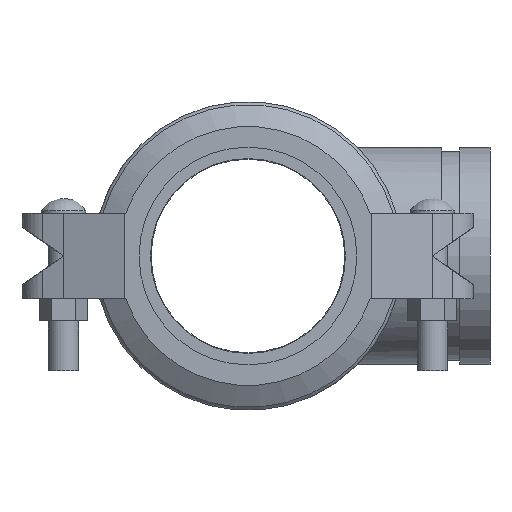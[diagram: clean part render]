
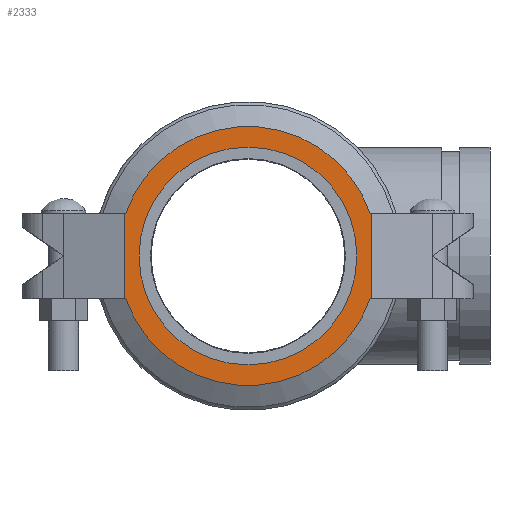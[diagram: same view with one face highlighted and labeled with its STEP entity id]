
A CAD part, left-side view. The second image highlights one B-rep face of the part: STEP entity #2333.
In plain terms, the highlighted planar face has unit normal (-1, 0, 0) as drawn and (0, 0, 1) by its records, which use the part's own axes.
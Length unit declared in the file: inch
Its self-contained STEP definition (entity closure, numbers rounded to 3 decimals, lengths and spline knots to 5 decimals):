
#94=FACE_BOUND('',#372,.T.);
#140=PLANE('',#2634);
#235=FACE_OUTER_BOUND('',#371,.T.);
#371=EDGE_LOOP('',(#1746,#1747,#1748,#1749,#1750,#1751,#1752,#1753));
#372=EDGE_LOOP('',(#1754,#1755));
#519=LINE('',#3784,#688);
#532=LINE('',#3818,#701);
#533=LINE('',#3822,#702);
#534=LINE('',#3824,#703);
#535=LINE('',#3826,#704);
#536=LINE('',#3829,#705);
#688=VECTOR('',#3090,0.3937);
#701=VECTOR('',#3129,0.3937);
#702=VECTOR('',#3132,0.3937);
#703=VECTOR('',#3133,0.3937);
#704=VECTOR('',#3134,0.3937);
#705=VECTOR('',#3137,0.3937);
#852=CIRCLE('',#2635,2.675);
#853=CIRCLE('',#2636,2.675);
#854=CIRCLE('',#2637,2.25);
#855=CIRCLE('',#2638,2.25);
#1015=VERTEX_POINT('',#3781);
#1016=VERTEX_POINT('',#3783);
#1024=VERTEX_POINT('',#3817);
#1025=VERTEX_POINT('',#3819);
#1026=VERTEX_POINT('',#3821);
#1027=VERTEX_POINT('',#3823);
#1028=VERTEX_POINT('',#3825);
#1029=VERTEX_POINT('',#3827);
#1030=VERTEX_POINT('',#3830);
#1031=VERTEX_POINT('',#3831);
#1275=EDGE_CURVE('',#1016,#1015,#519,.T.);
#1291=EDGE_CURVE('',#1015,#1024,#532,.T.);
#1292=EDGE_CURVE('',#1025,#1024,#852,.T.);
#1293=EDGE_CURVE('',#1026,#1025,#533,.T.);
#1294=EDGE_CURVE('',#1026,#1027,#534,.T.);
#1295=EDGE_CURVE('',#1027,#1028,#535,.T.);
#1296=EDGE_CURVE('',#1029,#1028,#853,.T.);
#1297=EDGE_CURVE('',#1016,#1029,#536,.T.);
#1298=EDGE_CURVE('',#1030,#1031,#854,.T.);
#1299=EDGE_CURVE('',#1031,#1030,#855,.T.);
#1746=ORIENTED_EDGE('',*,*,#1275,.T.);
#1747=ORIENTED_EDGE('',*,*,#1291,.T.);
#1748=ORIENTED_EDGE('',*,*,#1292,.F.);
#1749=ORIENTED_EDGE('',*,*,#1293,.F.);
#1750=ORIENTED_EDGE('',*,*,#1294,.T.);
#1751=ORIENTED_EDGE('',*,*,#1295,.T.);
#1752=ORIENTED_EDGE('',*,*,#1296,.F.);
#1753=ORIENTED_EDGE('',*,*,#1297,.F.);
#1754=ORIENTED_EDGE('',*,*,#1298,.T.);
#1755=ORIENTED_EDGE('',*,*,#1299,.T.);
#2333=ADVANCED_FACE('',(#235,#94),#140,.T.);
#2634=AXIS2_PLACEMENT_3D('',#3816,#3127,#3128);
#2635=AXIS2_PLACEMENT_3D('',#3820,#3130,#3131);
#2636=AXIS2_PLACEMENT_3D('',#3828,#3135,#3136);
#2637=AXIS2_PLACEMENT_3D('',#3832,#3138,#3139);
#2638=AXIS2_PLACEMENT_3D('',#3833,#3140,#3141);
#3090=DIRECTION('',(0.,-1.,0.));
#3127=DIRECTION('center_axis',(0.,0.,1.));
#3128=DIRECTION('ref_axis',(1.,0.,0.));
#3129=DIRECTION('',(1.,0.,0.));
#3130=DIRECTION('center_axis',(0.,0.,-1.));
#3131=DIRECTION('ref_axis',(-1.,0.,0.));
#3132=DIRECTION('',(-1.,0.,0.));
#3133=DIRECTION('',(0.,1.,0.));
#3134=DIRECTION('',(-1.,0.,0.));
#3135=DIRECTION('center_axis',(0.,0.,-1.));
#3136=DIRECTION('ref_axis',(-1.,0.,0.));
#3137=DIRECTION('',(1.,0.,0.));
#3138=DIRECTION('center_axis',(0.,0.,-1.));
#3139=DIRECTION('ref_axis',(-1.,0.,0.));
#3140=DIRECTION('center_axis',(0.,0.,-1.));
#3141=DIRECTION('ref_axis',(-1.,0.,0.));
#3781=CARTESIAN_POINT('',(-2.55,-0.88,1.19));
#3783=CARTESIAN_POINT('',(-2.55,0.88,1.19));
#3784=CARTESIAN_POINT('',(-2.55,1.7775,1.19));
#3816=CARTESIAN_POINT('Origin',(0.,2.675,1.19));
#3817=CARTESIAN_POINT('',(-2.52611,-0.88,1.19));
#3818=CARTESIAN_POINT('',(-4.66777,-0.88,1.19));
#3819=CARTESIAN_POINT('',(2.52611,-0.88,1.19));
#3820=CARTESIAN_POINT('Origin',(0.,0.,1.19));
#3821=CARTESIAN_POINT('',(2.55,-0.88,1.19));
#3822=CARTESIAN_POINT('',(4.66777,-0.88,1.19));
#3823=CARTESIAN_POINT('',(2.55,0.88,1.19));
#3824=CARTESIAN_POINT('',(2.55,1.7775,1.19));
#3825=CARTESIAN_POINT('',(2.52611,0.88,1.19));
#3826=CARTESIAN_POINT('',(4.66777,0.88,1.19));
#3827=CARTESIAN_POINT('',(-2.52611,0.88,1.19));
#3828=CARTESIAN_POINT('Origin',(0.,0.,1.19));
#3829=CARTESIAN_POINT('',(-4.66777,0.88,1.19));
#3830=CARTESIAN_POINT('',(0.,2.25,1.19));
#3831=CARTESIAN_POINT('',(0.,-2.25,1.19));
#3832=CARTESIAN_POINT('Origin',(0.,0.,1.19));
#3833=CARTESIAN_POINT('Origin',(0.,0.,1.19));
